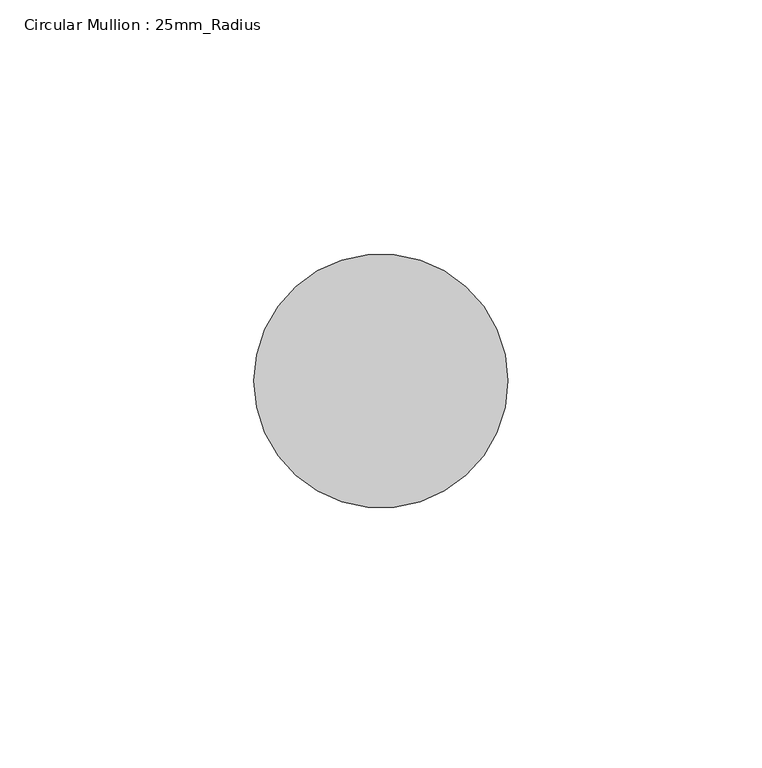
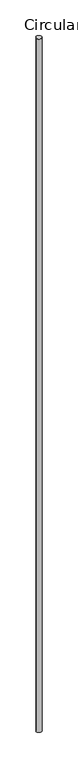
"""IFC4 building model written with IfcOpenShell, lengths in millimetres: member geometry, Circular Mullion : 25mm_Radius."""

from ifc_helpers import new_model, si_unit, point, frame, origin, origin_2d, place, context, project, spatial, circle_curve, trimmed, segment, composite_curve, outline, extrude, source, transform, mapped, element, save


def circular_mullion_25mm_radius_2c30e9ac(model_context):
    return source(origin(), model_context, "Body", "SweptSolid", [
        extrude(outline(composite_curve([segment(trimmed(circle_curve(origin_2d(), 25.0), [point((25.0, 0.0))], [point((-25.0, 0.0))], False, "CARTESIAN"), True, "CONTINUOUS"), segment(trimmed(circle_curve(origin_2d(), 25.0), [point((-25.0, 0.0))], [point((25.0, 0.0))], False, "CARTESIAN"), True, "CONTINUOUS")], self_intersect=False)), frame((0.0, 0.0, -6831.5511686), z_axis=(0.0, 0.0, 1.0), x_axis=(1.0, 0.0, 0.0)), (0.0, 0.0, 1.0), 6831.5511686),
    ])


if __name__ == "__main__":
    model = new_model("IFC4")
    model_context = context("Model", 3, world=origin())
    ifc_project = project(units=[si_unit("LENGTHUNIT", "METRE", prefix="MILLI")], contexts=[model_context])
    site = spatial("IfcSite", under=ifc_project)
    building = spatial("IfcBuilding", under=site)
    placement = place(None, origin())
    circular_mullion_25mm_radius_shape = circular_mullion_25mm_radius_2c30e9ac(model_context)
    element("IfcMember", 1, ObjectType="Circular Mullion : 25mm_Radius", at=placement, inside=building, context=model_context, shape_type="MappedRepresentation", body=[
        mapped(circular_mullion_25mm_radius_shape, transform((0.0, 0.0, 0.0), x_axis=(1.0, 0.0, 0.0), y_axis=(0.0, 1.0, 0.0), z_axis=(0.0, 0.0, 1.0))),
    ])
    save(model, "model.ifc")
